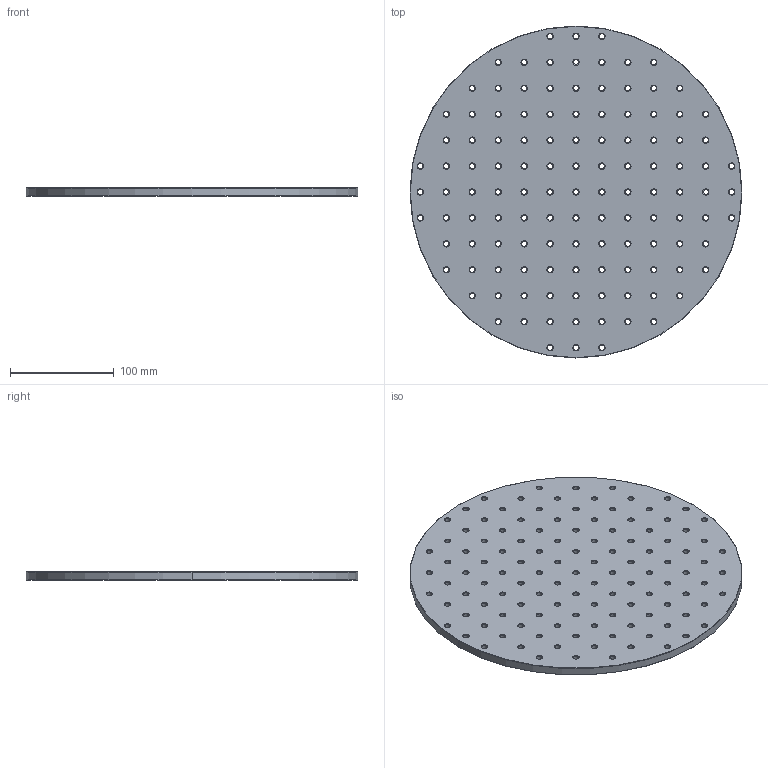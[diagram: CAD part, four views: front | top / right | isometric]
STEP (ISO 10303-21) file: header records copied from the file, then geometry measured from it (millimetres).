
FILE_DESCRIPTION (( 'STEP AP203' ), '1' );
FILE_NAME ('320眻噤醱婦啣.STEP', '2026-07-06T05:44:03', ( '' ), ( '' ), 'SwSTEP 2.0', 'SolidWorks 2024', '' );
FILE_SCHEMA (( 'CONFIG_CONTROL_DESIGN' ));
Length unit declared in the file: millimetre
Products named in the file (1): 320直径面包板
Bounding box: 320 x 320 x 8 mm (x, y, z)
Volume: 624020.8 mm3; surface area: 178451 mm2
Topology: 1 solids, 1 shells, 492 faces, 1224 edges, 734 vertices
Faces by surface type: cone 246, cylinder 244, plane 2
Entity records: 15275 total; most frequent: DIRECTION 2944, CARTESIAN_POINT 2451, ORIENTED_EDGE 2448, AXIS2_PLACEMENT_3D 1227, EDGE_CURVE 1224, CIRCLE 734, EDGE_LOOP 734, VERTEX_POINT 734
